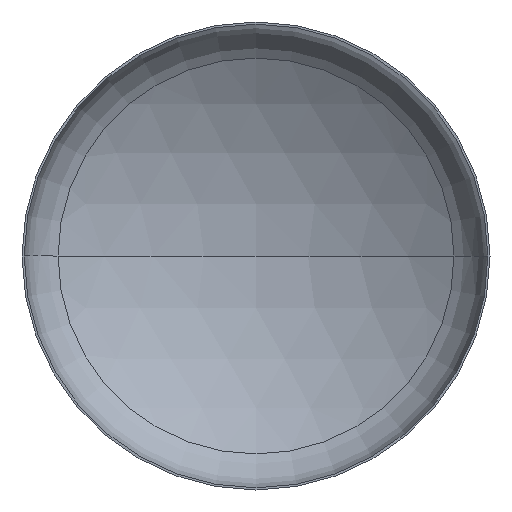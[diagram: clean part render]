
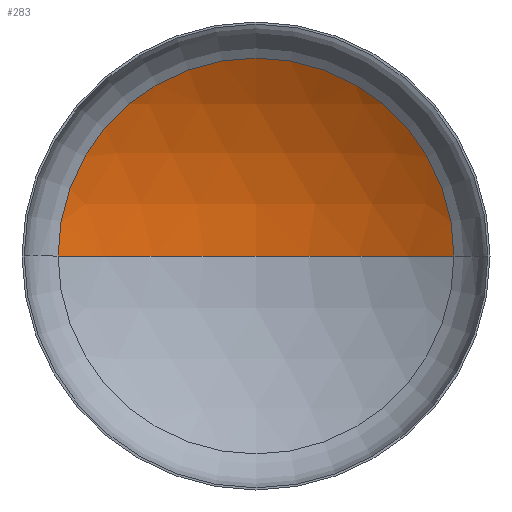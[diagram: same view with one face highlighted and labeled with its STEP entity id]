
A CAD part, front view. The second image highlights one B-rep face of the part: STEP entity #283.
In plain terms, the highlighted spherical face has radius 2240 mm.
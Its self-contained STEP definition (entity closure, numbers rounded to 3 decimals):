
#6 = AXIS2_PLACEMENT_3D ( 'NONE', #198, #202, #362 ) ;
#10 = AXIS2_PLACEMENT_3D ( 'NONE', #155, #156, #359 ) ;
#11 = EDGE_LOOP ( 'NONE', ( #115, #117, #81 ) ) ;
#25 = VERTEX_POINT ( 'NONE', #255 ) ;
#46 = DIRECTION ( 'NONE',  ( 0., 0., -1. ) ) ;
#50 = AXIS2_PLACEMENT_3D ( 'NONE', #406, #46, #392 ) ;
#52 = AXIS2_PLACEMENT_3D ( 'NONE', #232, #226, #231 ) ;
#81 = ORIENTED_EDGE ( 'NONE', *, *, #164, .T. ) ;
#95 = VERTEX_POINT ( 'NONE', #338 ) ;
#115 = ORIENTED_EDGE ( 'NONE', *, *, #370, .F. ) ;
#117 = ORIENTED_EDGE ( 'NONE', *, *, #366, .T. ) ;
#144 = VERTEX_POINT ( 'NONE', #210 ) ;
#155 = CARTESIAN_POINT ( 'NONE',  ( 0., -1496.311, 0. ) ) ;
#156 = DIRECTION ( 'NONE',  ( 0., 0., -1. ) ) ;
#164 = EDGE_CURVE ( 'NONE', #25, #95, #193, .T. ) ;
#193 = CIRCLE ( 'NONE', #52, 1184.354 ) ;
#198 = CARTESIAN_POINT ( 'NONE',  ( 0., -1496.311, 0. ) ) ;
#202 = DIRECTION ( 'NONE',  ( 0., 0., 1. ) ) ;
#210 = CARTESIAN_POINT ( 'NONE',  ( 0., 743.689, 0. ) ) ;
#217 = CIRCLE ( 'NONE', #6, 2240. ) ;
#226 = DIRECTION ( 'NONE',  ( 0., -1., 0. ) ) ;
#231 = DIRECTION ( 'NONE',  ( 1., 0., 0. ) ) ;
#232 = CARTESIAN_POINT ( 'NONE',  ( 0., 404.98, 0. ) ) ;
#255 = CARTESIAN_POINT ( 'NONE',  ( 1184.354, 404.98, 0. ) ) ;
#259 = SPHERICAL_SURFACE ( 'NONE', #50, 2240. ) ;
#283 = ADVANCED_FACE ( 'NONE', ( #294 ), #259, .F. ) ;
#294 = FACE_OUTER_BOUND ( 'NONE', #11, .T. ) ;
#331 = CIRCLE ( 'NONE', #10, 2240. ) ;
#338 = CARTESIAN_POINT ( 'NONE',  ( -1184.354, 404.98, 0. ) ) ;
#359 = DIRECTION ( 'NONE',  ( -1., 0., 0. ) ) ;
#362 = DIRECTION ( 'NONE',  ( 1., 0., 0. ) ) ;
#366 = EDGE_CURVE ( 'NONE', #144, #25, #331, .T. ) ;
#370 = EDGE_CURVE ( 'NONE', #144, #95, #217, .T. ) ;
#392 = DIRECTION ( 'NONE',  ( -1., 0., 0. ) ) ;
#406 = CARTESIAN_POINT ( 'NONE',  ( 0., -1496.311, 0. ) ) ;
